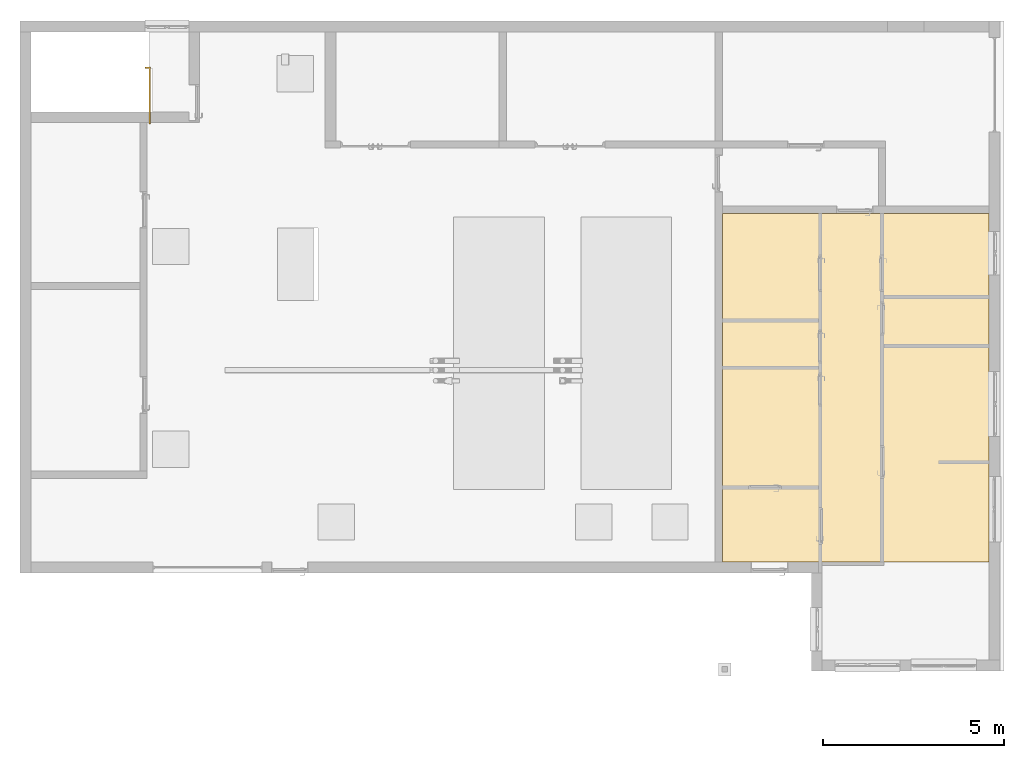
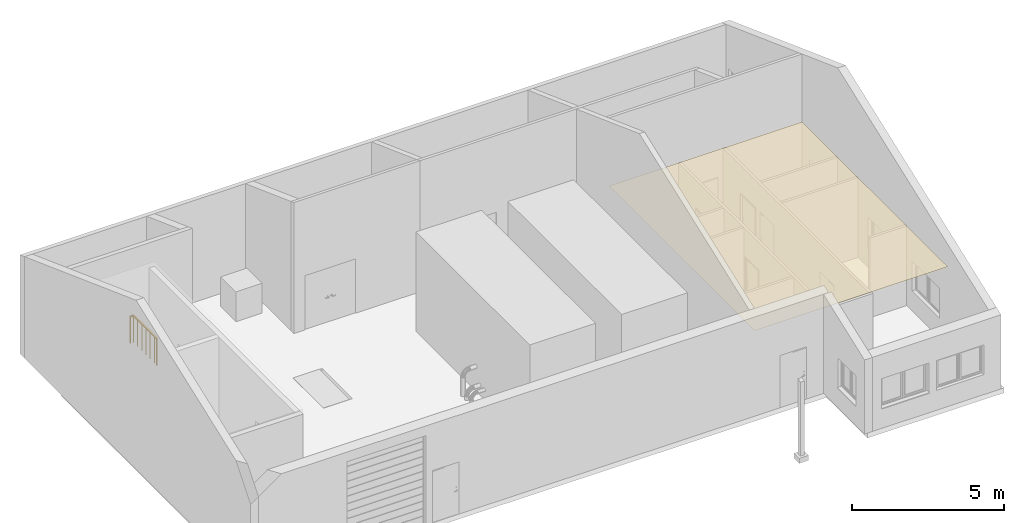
# One storey, part 18 of 23: 1 covering, 1 railing.
"""IFC2X3 building model written with IfcOpenShell, lengths in millimetres."""

from ifc_helpers import new_model, entity, si_unit, converted_unit, direction, frame, origin, place, context, subcontext, project, spatial, face_set, faceted_brep, surface_model, material, type_object, element, save


model = new_model("IFC2X3")

# Units and contexts
model_context = context("Model", 3, precision=0.01, world=origin(), true_north=direction((6.123031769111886e-17, 1.0)))
body_context = subcontext(model_context, "Body", "Model", "MODEL_VIEW")
ifc_project = project(units=[si_unit("LENGTHUNIT", "METRE", prefix="MILLI"), converted_unit("PLANEANGLEUNIT", "DEGREE", entity("IfcPlaneAngleMeasure", 0.017453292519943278), si_unit("PLANEANGLEUNIT", "RADIAN"), dimensions=[0, 0, 0, 0, 0, 0, 0]), si_unit("AREAUNIT", "SQUARE_METRE")], contexts=[model_context])

# Site, building, storey
site_placement = place(None, frame((7776.576483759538, 118.3519876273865, 0.0)))
site = spatial("IfcSite", under=ifc_project, at=site_placement, Name="Default", CompositionType="ELEMENT")
building_placement = place(site_placement, origin())
building = spatial("IfcBuilding", under=site, at=building_placement, Name="Bygning (endres i Project Information)", CompositionType="ELEMENT")
storey_placement = place(building_placement, frame((0.0, 0.0, 19000.0)))
storey = spatial("IfcBuildingStorey", under=building, at=storey_placement, Name="Plan 01", CompositionType="ELEMENT", Elevation=19000.0)

# Covering
covering_type = type_object("IfcCoveringType", Name="Basic Ceiling:Ceiling 1", PredefinedType="CEILING")
covering_placement = place(storey_placement, frame((32224.00137486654, 19697.757305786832, 3200.0)))
element("IfcCovering", 1, at=covering_placement, inside=storey, type_object=covering_type, Name="Basic Ceiling:Ceiling 1", ObjectType="Basic Ceiling:Ceiling 1", PredefinedType="CEILING", context=body_context, shape_type="SurfaceModel", body=[
    surface_model("IfcFaceBasedSurfaceModel", [(7350.0, 9600.0, 0.0), (0.0, 9600.0, 0.0), (0.0, 0.0, 0.0), (7350.0, 0.0, 0.0)], [face_set([[[0, 1, 2, 3]]])]),
])

# Railing
ifc_material = material(Name="<Unnamed>")
railing_type = type_object("IfcRailingType", Name="Railing:1100mm", PredefinedType="NOTDEFINED")
railing_placement = place(storey_placement, frame((16315.125502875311, 31766.956372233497, 0.0)))
element("IfcRailing", 2, at=railing_placement, inside=storey, type_object=railing_type, material=ifc_material, Name="Railing:1100mm", ObjectType="Railing:1100mm", PredefinedType="NOTDEFINED", context=body_context, shape_type="Brep", body=[
    faceted_brep([(122.90000000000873, 182.50000000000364, 1050.0), (147.90000000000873, 182.50000000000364, 1050.0), (147.90000000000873, 182.50000000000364, 0.0), (122.90000000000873, 182.50000000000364, 0.0), (147.90000000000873, 157.5, 1050.0), (147.90000000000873, 157.50000000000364, 0.0), (122.90000000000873, 157.5, 1050.0), (122.90000000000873, 157.5, 0.0)], [[[0, 1, 2, 3]], [[1, 4, 5, 2]], [[4, 6, 7, 5]], [[3, 7, 6, 0]], [[0, 6, 4, 1]], [[2, 5, 7, 3]]]),
    faceted_brep([(122.90000000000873, 457.5, 1050.0), (147.90000000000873, 457.5, 1050.0), (147.90000000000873, 457.5, 0.0), (122.90000000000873, 457.5, 0.0), (147.90000000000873, 432.49999999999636, 1050.0), (147.90000000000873, 432.5, 0.0), (122.90000000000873, 432.49999999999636, 1050.0), (122.90000000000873, 432.49999999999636, 0.0)], [[[0, 1, 2, 3]], [[1, 4, 5, 2]], [[4, 6, 7, 5]], [[3, 7, 6, 0]], [[0, 6, 4, 1]], [[2, 5, 7, 3]]]),
    faceted_brep([(122.90000000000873, 732.5000000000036, 1050.0), (147.90000000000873, 732.5000000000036, 1050.0), (147.90000000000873, 732.5000000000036, 0.0), (122.90000000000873, 732.5000000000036, 0.0), (147.90000000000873, 707.5, 1050.0), (147.90000000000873, 707.5000000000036, 0.0), (122.90000000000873, 707.5, 1050.0), (122.90000000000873, 707.5, 0.0)], [[[0, 1, 2, 3]], [[1, 4, 5, 2]], [[4, 6, 7, 5]], [[3, 7, 6, 0]], [[0, 6, 4, 1]], [[2, 5, 7, 3]]]),
    faceted_brep([(122.90000000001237, 1007.5000000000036, 1050.0), (147.90000000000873, 1007.5000000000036, 1050.0), (147.90000000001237, 1007.5000000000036, 0.0), (122.90000000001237, 1007.5000000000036, 0.0), (147.90000000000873, 982.4999999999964, 1050.0), (147.90000000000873, 982.5000000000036, 0.0), (122.90000000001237, 982.4999999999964, 1050.0), (122.90000000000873, 982.4999999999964, 0.0)], [[[0, 1, 2, 3]], [[1, 4, 5, 2]], [[4, 6, 7, 5]], [[3, 7, 6, 0]], [[0, 6, 4, 1]], [[2, 5, 7, 3]]]),
    faceted_brep([(122.90000000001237, 1282.5000000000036, 1050.0), (147.90000000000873, 1282.5000000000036, 1050.0), (147.90000000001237, 1282.5000000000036, 0.0), (122.90000000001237, 1282.5000000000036, 0.0), (147.90000000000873, 1257.5000000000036, 1050.0), (147.90000000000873, 1257.5000000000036, 0.0), (122.90000000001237, 1257.5000000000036, 1050.0), (122.90000000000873, 1257.5000000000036, 0.0)], [[[0, 1, 2, 3]], [[1, 4, 5, 2]], [[4, 6, 7, 5]], [[3, 7, 6, 0]], [[0, 6, 4, 1]], [[2, 5, 7, 3]]]),
    faceted_brep([(122.90000000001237, 1532.4999999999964, 1050.0), (122.90000000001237, 1557.5000000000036, 1050.0), (122.90000000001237, 1557.4999999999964, 0.0), (122.90000000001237, 1532.4999999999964, 0.0), (147.90000000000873, 1557.5000000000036, 1050.0), (147.90000000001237, 1557.5000000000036, 0.0), (147.90000000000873, 1532.4999999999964, 1050.0), (147.90000000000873, 1532.5000000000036, 0.0)], [[[0, 1, 2, 3]], [[1, 4, 5, 2]], [[4, 6, 7, 5]], [[3, 7, 6, 0]], [[0, 6, 4, 1]], [[2, 5, 7, 3]]]),
    faceted_brep([(122.90000000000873, 25.0, 1050.0), (147.90000000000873, 25.0, 1050.0), (147.90000000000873, 25.0, 0.0), (122.90000000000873, 25.0, 0.0), (147.90000000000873, 0.0, 1050.0), (147.90000000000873, 0.0, 0.0), (122.90000000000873, 0.0, 1050.0), (122.90000000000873, 0.0, 0.0)], [[[0, 1, 2, 3]], [[1, 4, 5, 2]], [[4, 6, 7, 5]], [[3, 7, 6, 0]], [[0, 6, 4, 1]], [[2, 5, 7, 3]]]),
    faceted_brep([(0.0, 1532.4999999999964, 1050.0), (0.0, 1557.5000000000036, 1050.0), (0.0, 1557.4999999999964, 0.0), (0.0, 1532.4999999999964, 0.0), (25.0, 1557.5000000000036, 1050.0), (25.0, 1557.5000000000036, 0.0), (25.0, 1532.4999999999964, 1050.0), (25.0, 1532.5000000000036, 0.0)], [[[0, 1, 2, 3]], [[1, 4, 5, 2]], [[4, 6, 7, 5]], [[3, 7, 6, 0]], [[0, 6, 4, 1]], [[2, 5, 7, 3]]]),
    faceted_brep([(0.0, 1570.0, 1100.0), (0.0, 1570.0, 1050.0), (0.0, 1520.0, 1050.0), (0.0, 1520.0, 1100.0), (110.40000000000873, 1520.0, 1100.0), (160.40000000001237, 1570.0, 1100.0), (110.40000000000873, 1520.0, 1050.0), (160.40000000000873, 1570.0, 1050.0), (160.40000000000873, 0.0, 1100.0), (110.40000000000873, 0.0, 1100.0), (110.4000000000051, 0.0, 1050.0), (160.4000000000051, 0.0, 1050.0)], [[[0, 1, 2, 3]], [[0, 3, 4, 5]], [[3, 2, 6, 4]], [[2, 1, 7, 6]], [[1, 0, 5, 7]], [[8, 9, 10, 11]], [[7, 5, 8, 11]], [[6, 7, 11, 10]], [[4, 6, 10, 9]], [[5, 4, 9, 8]]]),
])

save(model, "model.ifc")
